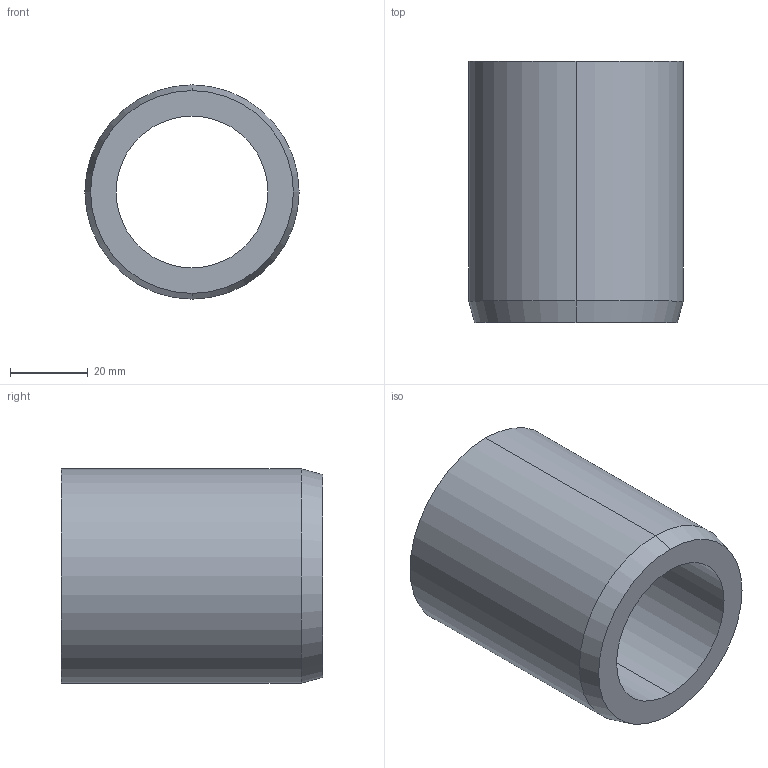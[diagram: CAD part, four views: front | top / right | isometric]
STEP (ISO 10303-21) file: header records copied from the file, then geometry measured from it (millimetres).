
FILE_DESCRIPTION (( 'STEP AP214' ), '1' );
FILE_NAME ('179-B39-67-A.step', '2024-10-17T06:10:45', ( '' ), ( '' ), 'SwSTEP 2.0', 'SolidWorks 2022', '' );
FILE_SCHEMA (( 'AUTOMOTIVE_DESIGN' ));
Length unit declared in the file: millimetre
Products named in the file (1): 179-B39-67-A
Bounding box: 55 x 67 x 55 mm (x, y, z)
Volume: 78353 mm3; surface area: 21806.7 mm2
Topology: 1 solids, 1 shells, 10 faces, 20 edges, 12 vertices
Faces by surface type: cylinder 4, cone 2, torus 2, plane 2
Entity records: 414 total; most frequent: DIRECTION 56, CARTESIAN_POINT 43, ORIENTED_EDGE 40, AXIS2_PLACEMENT_3D 25, EDGE_CURVE 20, CIRCLE 14, UNCERTAINTY_MEASURE_WITH_UNIT 13, PRESENTATION_LAYER_ASSIGNMENT 12
